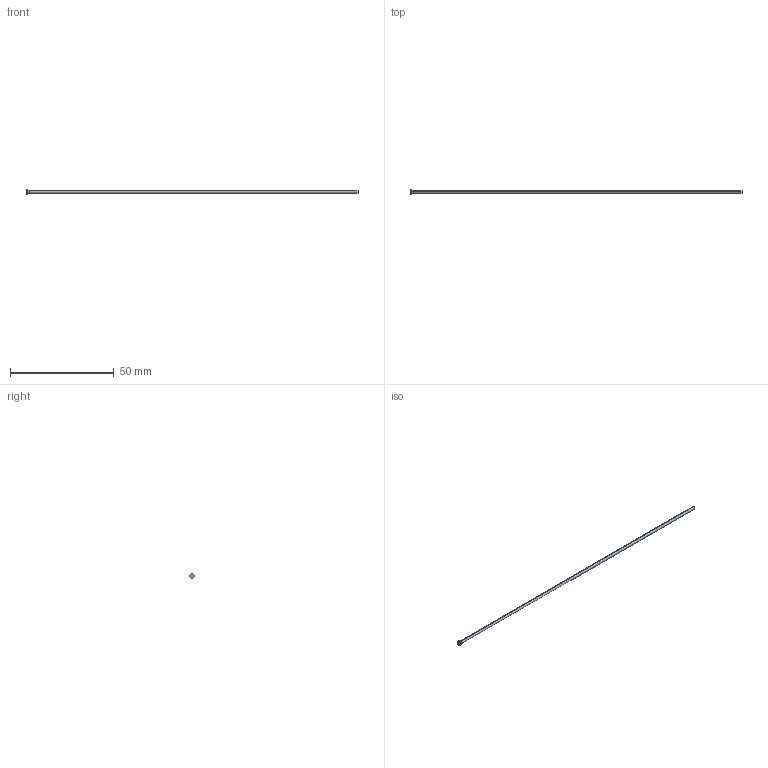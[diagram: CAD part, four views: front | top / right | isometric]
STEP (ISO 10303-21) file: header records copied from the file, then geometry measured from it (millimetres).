
FILE_DESCRIPTION (( 'STEP AP214' ), '1' );
FILE_NAME ('D-1,4x160.STEP', '2020-06-08T09:18:57', ( 'August' ), ( '' ), 'SwSTEP 2.0', 'SolidWorks 2018', '' );
FILE_SCHEMA (( 'AUTOMOTIVE_DESIGN' ));
Length unit declared in the file: millimetre
Products named in the file (1): D-1,4x160
Bounding box: 160 x 2.2 x 2.2 mm (x, y, z)
Volume: 248.2 mm3; surface area: 711.8 mm2
Topology: 1 solids, 1 shells, 10 faces, 18 edges, 10 vertices
Faces by surface type: cylinder 4, torus 2, cone 2, plane 2
Entity records: 280 total; most frequent: DIRECTION 52, CARTESIAN_POINT 39, ORIENTED_EDGE 36, AXIS2_PLACEMENT_3D 23, EDGE_CURVE 18, CIRCLE 12, ADVANCED_FACE 10, VERTEX_POINT 10
